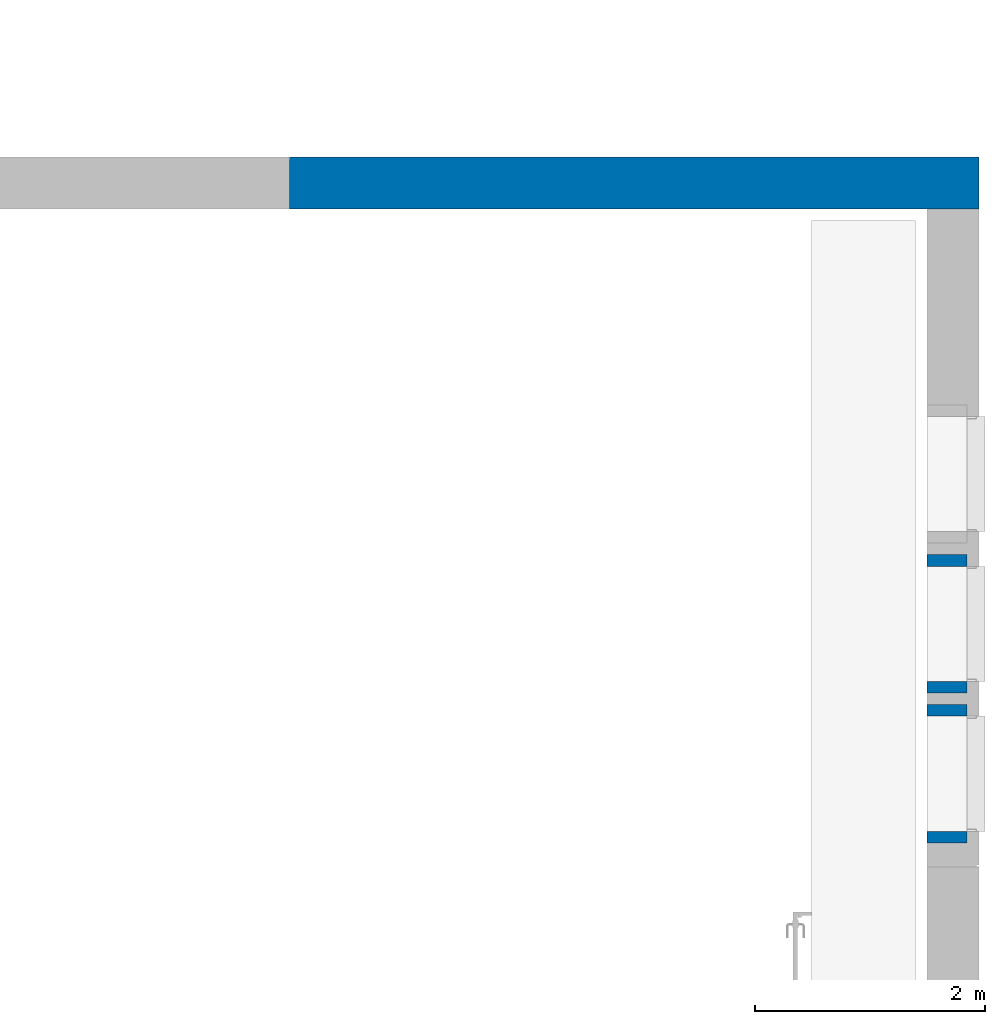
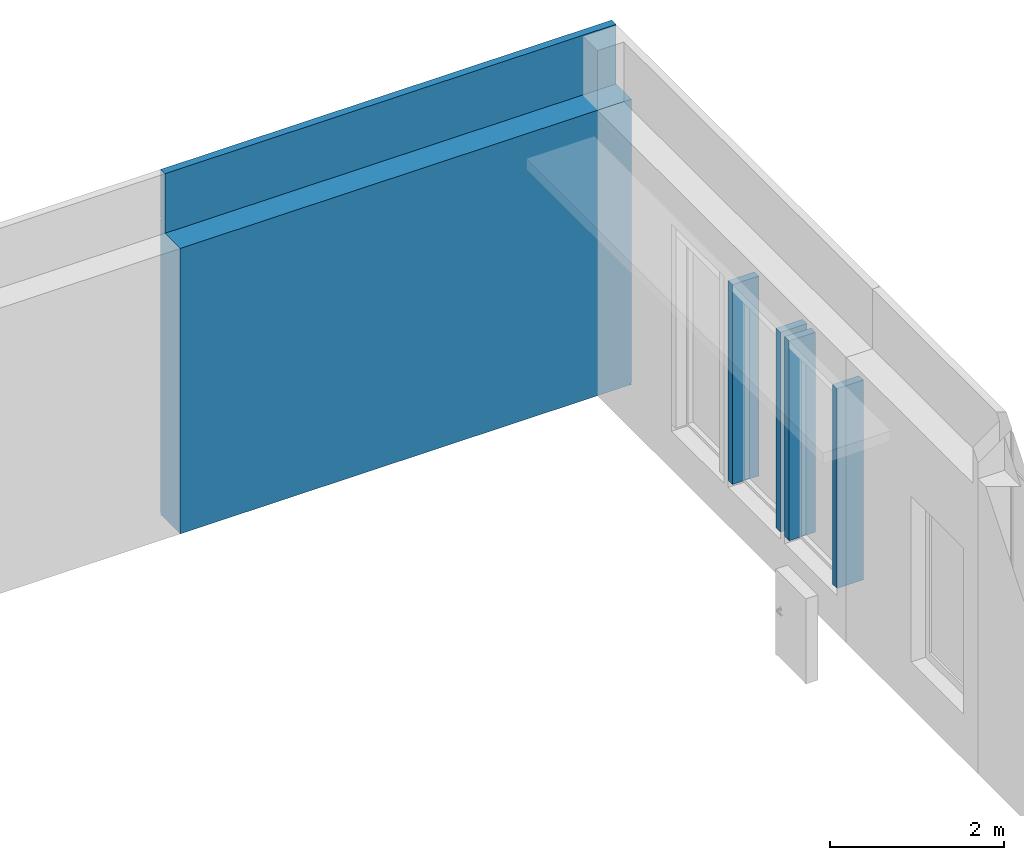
# One storey, part 26 of 33: 5 walls, 2 openings.
"""IFC2X3 building model written with IfcOpenShell, lengths in millimetres."""

from ifc_helpers import new_model, entity, si_unit, converted_unit, derived_unit, direction, frame, frame_2d, origin, place, context, subcontext, project, spatial, polyline, rectangle, extrude, clip, bounded_halfspace, faceted_brep, material, layer, layer_set, layer_usage, type_object, element, save


model = new_model("IFC2X3")

# Units and contexts
model_context = context("Model", 3, precision=0.01, world=origin(), true_north=direction((6.12303176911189e-17, 1.0)))
body_context = subcontext(model_context, "Body", "Model", "MODEL_VIEW")
ifc_project = project(units=[si_unit("LENGTHUNIT", "METRE", prefix="MILLI"), si_unit("AREAUNIT", "SQUARE_METRE"), si_unit("VOLUMEUNIT", "CUBIC_METRE"), converted_unit("PLANEANGLEUNIT", "DEGREE", entity("IfcRatioMeasure", 0.0174532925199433), si_unit("PLANEANGLEUNIT", "RADIAN"), dimensions=[0, 0, 0, 0, 0, 0, 0]), si_unit("MASSUNIT", "GRAM", prefix="KILO"), derived_unit("MASSDENSITYUNIT", [(si_unit("MASSUNIT", "GRAM", prefix="KILO"), 1), (si_unit("LENGTHUNIT", "METRE"), -3)]), si_unit("TIMEUNIT", "SECOND"), si_unit("FREQUENCYUNIT", "HERTZ"), si_unit("THERMODYNAMICTEMPERATUREUNIT", "DEGREE_CELSIUS"), derived_unit("THERMALTRANSMITTANCEUNIT", [(si_unit("MASSUNIT", "GRAM", prefix="KILO"), 1), (si_unit("THERMODYNAMICTEMPERATUREUNIT", "KELVIN"), -1), (si_unit("TIMEUNIT", "SECOND"), -3)]), derived_unit("VOLUMETRICFLOWRATEUNIT", [(si_unit("LENGTHUNIT", "METRE"), 3), (si_unit("TIMEUNIT", "SECOND"), -1)]), si_unit("ELECTRICCURRENTUNIT", "AMPERE"), si_unit("ELECTRICVOLTAGEUNIT", "VOLT"), si_unit("POWERUNIT", "WATT"), si_unit("FORCEUNIT", "NEWTON", prefix="KILO"), si_unit("ILLUMINANCEUNIT", "LUX"), si_unit("LUMINOUSFLUXUNIT", "LUMEN"), si_unit("LUMINOUSINTENSITYUNIT", "CANDELA"), derived_unit("USERDEFINED", [(si_unit("MASSUNIT", "GRAM", prefix="KILO"), -1), (si_unit("LENGTHUNIT", "METRE"), -2), (si_unit("TIMEUNIT", "SECOND"), 3), (si_unit("LUMINOUSFLUXUNIT", "LUMEN"), 1)]), derived_unit("LINEARVELOCITYUNIT", [(si_unit("LENGTHUNIT", "METRE"), 1), (si_unit("TIMEUNIT", "SECOND"), -1)]), si_unit("PRESSUREUNIT", "PASCAL"), derived_unit("USERDEFINED", [(si_unit("LENGTHUNIT", "METRE"), -2), (si_unit("MASSUNIT", "GRAM", prefix="KILO"), 1), (si_unit("TIMEUNIT", "SECOND"), -2)])], contexts=[model_context])

# Site, building, storey
site_placement = place(None, origin())
site = spatial("IfcSite", under=ifc_project, at=site_placement, Name="Default", CompositionType="ELEMENT")
building_placement = place(site_placement, origin())
building = spatial("IfcBuilding", under=site, at=building_placement, CompositionType="ELEMENT")
storey_placement = place(building_placement, frame((0.0, 0.0, 4000.0)))
storey = spatial("IfcBuildingStorey", under=building, at=storey_placement, Name="2. KORRUS", CompositionType="ELEMENT", Elevation=4000.0)

# Wall, openings
ifc_material_1 = material(Name="RECKLI 1 173 THUR by Polantis 2016-toon1")
ifc_layer_1 = layer(ifc_material_1, 100.0)
ifc_material_2 = material(Name="Soojusisolatsioon EPS")
ifc_layer_2 = layer(ifc_material_2, 200.0)
ifc_material_3 = material(Name="r/b")
ifc_layer_3 = layer(ifc_material_3, 150.0)
ifc_layer_set_1 = layer_set([ifc_layer_1, ifc_layer_2, ifc_layer_3], Name="Basic Wall:VS-1_toon-d")
ifc_layer_usage_1 = layer_usage(ifc_layer_set_1, "AXIS2", "NEGATIVE", 225.0)
wall_type_1 = type_object("IfcWallType", Name="Basic Wall:VS-1_toon-d", PredefinedType="STANDARD", material=ifc_layer_set_1)
wall_1_placement = place(storey_placement, frame((33970.103570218, 21725.0517807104, -135.0)))
wall_1 = element("IfcWallStandardCase", 1, at=wall_1_placement, inside=storey, type_object=wall_type_1, material=ifc_layer_usage_1, Name="Basic Wall:VS-1_toon-d", ObjectType="Basic Wall:VS-1_toon-d", context=body_context, shape_type="Clipping", body=[
    clip(clip(extrude(rectangle(XDim=5979.89642978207, YDim=450.000000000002, at=frame_2d((2989.94821489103, 9.52127265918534e-13), x_axis=(-1.0, 0.0))), origin(), (0.0, 0.0, 1.0), 4835.0), bounded_halfspace(frame((0.0, -225.0, 4000.0), z_axis=(0.0, 0.0, 1.0), x_axis=(0.0, 1.0, 0.0)), False, frame((0.0, -225.0, 4000.0)), polyline([(0.0, 0.0), (5529.89642978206, 0.0), (5979.89642978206, 0.0), (5979.89642978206, 333.948219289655), (5979.89642978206, 350.0), (5959.89642978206, 350.0), (5879.89642978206, 350.0), (0.0, 350.0), (0.0, 0.0)]))), bounded_halfspace(frame((0.0, -225.0, 4000.0), z_axis=(0.0, 0.0, 1.0), x_axis=(0.0, 1.0, 0.0)), False, frame((0.0, -225.0, 4000.0)), polyline([(0.0, 0.0), (5529.89642978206, 0.0), (5979.89642978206, 0.0), (5979.89642978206, 333.948219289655), (5979.89642978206, 350.0), (5959.89642978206, 350.0), (5879.89642978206, 350.0), (0.0, 350.0), (0.0, 0.0)]))),
])
opening_1_placement = place(wall_1_placement, frame((-34420.1035702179, -22175.0517807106, 4.0)))
element("IfcOpeningElement", 2, at=opening_1_placement, cuts=wall_1, Name="Basic Wall:VS-1_toon-d", ObjectType="Opening", context=body_context, shape_type="Brep", body=[
    faceted_brep([(11850.0, 20.0, 16.0), (11850.0, 0.0, 16.0), (11850.0, 0.0, 0.0), (11850.0, 20.0, 0.0), (4260.0, 20.0, 16.0), (4260.0, 20.0, 0.0), (4260.0, 0.0, 0.0), (4260.0, 0.0, 16.0)], [[[0, 1, 2, 3]], [[4, 5, 6, 7]], [[1, 0, 4, 7]], [[2, 1, 7, 6]], [[3, 2, 6, 5]], [[0, 3, 5, 4]]]),
    faceted_brep([(20.0, 28480.0, 16.0), (20.0, 28480.0, 0.0), (0.0, 28500.0, 0.0), (0.0, 28500.0, 16.0), (20.0, 23740.0, 16.0), (0.0, 23740.0, 16.0), (0.0, 23740.0, 0.0), (20.0, 23740.0, 0.0)], [[[0, 1, 2, 3]], [[4, 5, 6, 7]], [[1, 0, 4, 7]], [[2, 1, 7, 6]], [[3, 2, 6, 5]], [[0, 3, 5, 4]]]),
    faceted_brep([(10080.0, 22380.0517807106, 16.0), (10100.0, 22400.0517807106, 16.0), (10100.0, 22400.0517807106, 0.0), (10080.0, 22380.0517807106, 0.0), (15330.3475962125, 22380.0517807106, 16.0), (15330.3475962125, 22380.0517807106, 0.0), (15330.3475962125, 22400.0517807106, 0.0), (15330.3475962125, 22400.0517807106, 16.0)], [[[0, 1, 2, 3]], [[4, 5, 6, 7]], [[1, 0, 4, 7]], [[2, 1, 7, 6]], [[3, 2, 6, 5]], [[0, 3, 5, 4]]]),
    faceted_brep([(20.0, 28480.0, 16.0), (0.0, 28500.0, 16.0), (0.0, 28500.0, 0.0), (20.0, 28480.0, 0.0), (4360.0, 28480.0, 16.0), (4360.0, 28480.0, 0.0), (4360.0, 28500.0, 0.0), (4360.0, 28500.0, 16.0)], [[[0, 1, 2, 3]], [[4, 5, 6, 7]], [[1, 0, 4, 7]], [[2, 1, 7, 6]], [[3, 2, 6, 5]], [[0, 3, 5, 4]]]),
    faceted_brep([(40380.0, 20.0, 16.0), (40400.0, 0.0, 16.0), (40400.0, 0.0, 0.0), (40380.0, 20.0, 0.0), (35250.0, 20.0, 16.0), (35250.0, 20.0, 0.0), (35250.0, 0.0, 0.0), (35250.0, 0.0, 16.0)], [[[0, 1, 2, 3]], [[4, 5, 6, 7]], [[1, 0, 4, 7]], [[2, 1, 7, 6]], [[3, 2, 6, 5]], [[0, 3, 5, 4]]]),
    faceted_brep([(34420.1035702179, 22380.0517807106, 16.0), (34420.1035702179, 22400.0517807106, 16.0), (34420.1035702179, 22400.0517807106, 0.0), (34420.1035702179, 22380.0517807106, 0.0), (40380.0, 22380.0517807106, 16.0), (40380.0, 22380.0517807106, 0.0), (40400.0, 22400.0517807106, 0.0), (40400.0, 22400.0517807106, 16.0)], [[[0, 1, 2, 3]], [[4, 5, 6, 7]], [[1, 0, 4, 7]], [[2, 1, 7, 6]], [[3, 2, 6, 5]], [[0, 3, 5, 4]]]),
    faceted_brep([(29113.2161487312, 22380.0517807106, 16.0), (29113.2161487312, 22400.0517807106, 16.0), (29113.2161487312, 22400.0517807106, 0.0), (29113.2161487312, 22380.0517807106, 0.0), (34420.1035702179, 22380.0517807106, 16.0), (34420.1035702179, 22380.0517807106, 0.0), (34420.1035702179, 22400.0517807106, 0.0), (34420.1035702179, 22400.0517807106, 16.0)], [[[0, 1, 2, 3]], [[4, 5, 6, 7]], [[1, 0, 4, 7]], [[2, 1, 7, 6]], [[3, 2, 6, 5]], [[0, 3, 5, 4]]]),
    faceted_brep([(10080.0, 28480.0, 16.0), (10100.0, 28500.0, 16.0), (10100.0, 28500.0, 0.0), (10080.0, 28480.0, 0.0), (10080.0, 22380.0517807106, 16.0), (10080.0, 22380.0517807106, 0.0), (10100.0, 22400.0517807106, 0.0), (10100.0, 22400.0517807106, 16.0)], [[[0, 1, 2, 3]], [[4, 5, 6, 7]], [[1, 0, 4, 7]], [[2, 1, 7, 6]], [[3, 2, 6, 5]], [[0, 3, 5, 4]]]),
    faceted_brep([(4260.0, 20.0, 16.0), (4260.0, 0.0, 16.0), (4260.0, 0.0, 0.0), (4260.0, 20.0, 0.0), (0.0, 20.0, 16.0), (0.0, 20.0, 0.0), (0.0, 0.0, 0.0), (0.0, 0.0, 16.0)], [[[0, 1, 2, 3]], [[4, 5, 6, 7]], [[1, 0, 4, 7]], [[2, 1, 7, 6]], [[3, 2, 6, 5]], [[0, 3, 5, 4]]]),
    faceted_brep([(40380.0, 4865.0, 16.0), (40400.0, 4865.0, 16.0), (40400.0, 4865.0, 0.0), (40380.0, 4865.0, 0.0), (40380.0, 20.0, 16.0), (40380.0, 20.0, 0.0), (40400.0, 0.0, 0.0), (40400.0, 0.0, 16.0)], [[[0, 1, 2, 3]], [[4, 5, 6, 7]], [[1, 0, 4, 7]], [[2, 1, 7, 6]], [[3, 2, 6, 5]], [[0, 3, 5, 4]]]),
    faceted_brep([(40380.0, 9093.33000000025, 16.0), (40400.0, 9093.33000000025, 16.0), (40400.0, 9093.33000000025, 0.0), (40380.0, 9093.33000000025, 0.0), (40380.0, 4865.0, 16.0), (40380.0, 4865.0, 0.0), (40400.0, 4865.0, 0.0), (40400.0, 4865.0, 16.0)], [[[0, 1, 2, 3]], [[4, 5, 6, 7]], [[1, 0, 4, 7]], [[2, 1, 7, 6]], [[3, 2, 6, 5]], [[0, 3, 5, 4]]]),
    faceted_brep([(40380.0, 13210.0, 16.0), (40400.0, 13210.0, 16.0), (40400.0, 13210.0, 0.0), (40380.0, 13210.0, 0.0), (40380.0, 9093.33000000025, 16.0), (40380.0, 9093.33000000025, 0.0), (40400.0, 9093.33000000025, 0.0), (40400.0, 9093.33000000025, 16.0)], [[[0, 1, 2, 3]], [[4, 5, 6, 7]], [[1, 0, 4, 7]], [[2, 1, 7, 6]], [[3, 2, 6, 5]], [[0, 3, 5, 4]]]),
    faceted_brep([(40380.0, 16240.0, 16.0), (40400.0, 16240.0, 16.0), (40400.0, 16240.0, 0.0), (40380.0, 16240.0, 0.0), (40380.0, 13210.0, 16.0), (40380.0, 13210.0, 0.0), (40400.0, 13210.0, 0.0), (40400.0, 13210.0, 16.0)], [[[0, 1, 2, 3]], [[4, 5, 6, 7]], [[1, 0, 4, 7]], [[2, 1, 7, 6]], [[3, 2, 6, 5]], [[0, 3, 5, 4]]]),
    faceted_brep([(40380.0, 22380.0517807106, 16.0), (40400.0, 22400.0517807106, 16.0), (40400.0, 22400.0517807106, 0.0), (40380.0, 22380.0517807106, 0.0), (40380.0, 16240.0, 16.0), (40380.0, 16240.0, 0.0), (40400.0, 16240.0, 0.0), (40400.0, 16240.0, 16.0)], [[[0, 1, 2, 3]], [[4, 5, 6, 7]], [[1, 0, 4, 7]], [[2, 1, 7, 6]], [[3, 2, 6, 5]], [[0, 3, 5, 4]]]),
    faceted_brep([(22535.0, 22380.0517807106, 16.0), (22535.0, 22400.0517807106, 16.0), (22535.0, 22400.0517807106, 0.0), (22535.0, 22380.0517807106, 0.0), (29113.2161487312, 22380.0517807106, 16.0), (29113.2161487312, 22380.0517807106, 0.0), (29113.2161487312, 22400.0517807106, 0.0), (29113.2161487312, 22400.0517807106, 16.0)], [[[0, 1, 2, 3]], [[4, 5, 6, 7]], [[1, 0, 4, 7]], [[2, 1, 7, 6]], [[3, 2, 6, 5]], [[0, 3, 5, 4]]]),
    faceted_brep([(18703.3528910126, 22380.0517807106, 16.0), (18703.3528910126, 22400.0517807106, 16.0), (18703.3528910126, 22400.0517807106, 0.0), (18703.3528910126, 22380.0517807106, 0.0), (22535.0, 22380.0517807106, 16.0), (22535.0, 22380.0517807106, 0.0), (22535.0, 22400.0517807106, 0.0), (22535.0, 22400.0517807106, 16.0)], [[[0, 1, 2, 3]], [[4, 5, 6, 7]], [[1, 0, 4, 7]], [[2, 1, 7, 6]], [[3, 2, 6, 5]], [[0, 3, 5, 4]]]),
    faceted_brep([(15330.3475962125, 22380.0517807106, 16.0), (15330.3475962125, 22400.0517807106, 16.0), (15330.3475962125, 22400.0517807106, 0.0), (15330.3475962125, 22380.0517807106, 0.0), (18703.3528910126, 22380.0517807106, 16.0), (18703.3528910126, 22380.0517807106, 0.0), (18703.3528910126, 22400.0517807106, 0.0), (18703.3528910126, 22400.0517807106, 16.0)], [[[0, 1, 2, 3]], [[4, 5, 6, 7]], [[1, 0, 4, 7]], [[2, 1, 7, 6]], [[3, 2, 6, 5]], [[0, 3, 5, 4]]]),
    faceted_brep([(4360.0, 28480.0, 16.0), (4360.0, 28500.0, 16.0), (4360.0, 28500.0, 0.0), (4360.0, 28480.0, 0.0), (10080.0, 28480.0, 16.0), (10080.0, 28480.0, 0.0), (10100.0, 28500.0, 0.0), (10100.0, 28500.0, 16.0)], [[[0, 1, 2, 3]], [[4, 5, 6, 7]], [[1, 0, 4, 7]], [[2, 1, 7, 6]], [[3, 2, 6, 5]], [[0, 3, 5, 4]]]),
    faceted_brep([(20.0, 23740.0, 16.0), (20.0, 23740.0, 0.0), (0.0, 23740.0, 0.0), (0.0, 23740.0, 16.0), (20.0, 16890.0006972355, 16.0), (0.0, 16890.0006972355, 16.0), (0.0, 16890.0006972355, 0.0), (20.0, 16890.0006972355, 0.0)], [[[0, 1, 2, 3]], [[4, 5, 6, 7]], [[1, 0, 4, 7]], [[2, 1, 7, 6]], [[3, 2, 6, 5]], [[0, 3, 5, 4]]]),
    faceted_brep([(20.0, 16890.0006972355, 16.0), (20.0, 16890.0006972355, 0.0), (0.0, 16890.0006972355, 0.0), (0.0, 16890.0006972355, 16.0), (20.0, 13460.0, 16.0), (0.0, 13460.0, 16.0), (0.0, 13460.0, 0.0), (20.0, 13460.0, 0.0)], [[[0, 1, 2, 3]], [[4, 5, 6, 7]], [[1, 0, 4, 7]], [[2, 1, 7, 6]], [[3, 2, 6, 5]], [[0, 3, 5, 4]]]),
])
opening_2_placement = place(wall_1_placement, origin())
element("IfcOpeningElement", 3, at=opening_2_placement, cuts=wall_1, Name="Basic Wall:VS-1_toon-d", ObjectType="Opening", context=body_context, shape_type="SweptSolid", body=[
    extrude(rectangle(XDim=15.9999999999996, YDim=7590.0, at=frame_2d((0.0, -5.40900657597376e-13), x_axis=(0.0, 1.0))), frame((-26365.1035702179, -22175.0517807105, 4147.0), z_axis=(0.0, 1.0, 0.0), x_axis=(-1.0, 0.0, 0.0)), (0.0, 0.0, 1.0), 20.0),
    extrude(rectangle(XDim=15.9999999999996, YDim=20.0, at=frame_2d((5.40900657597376e-13, -3.37507799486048e-14), x_axis=(1.0, 0.0))), frame((-34410.1035702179, 1564.94821928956, 4147.0), z_axis=(0.0, 1.0, 0.0), x_axis=(0.0, 0.0, -1.0)), (0.0, 0.0, 1.0), 4660.0),
    extrude(rectangle(XDim=15.9999999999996, YDim=5230.3475962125, at=frame_2d((0.0, 5.40900657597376e-13), x_axis=(0.0, 1.0))), frame((-21704.9297721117, 205.0, 4147.0), z_axis=(0.0, 1.0, 0.0), x_axis=(1.0, 0.0, 0.0)), (0.0, 0.0, 1.0), 19.9999999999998),
    extrude(rectangle(XDim=15.9999999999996, YDim=4360.0, at=frame_2d((0.0, 5.40900657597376e-13), x_axis=(0.0, 1.0))), frame((-32240.1035702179, 6304.94821928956, 4147.0), z_axis=(0.0, 1.0, 0.0), x_axis=(1.0, 0.0, 0.0)), (0.0, 0.0, 1.0), 19.9999999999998),
    extrude(rectangle(XDim=15.9999999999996, YDim=5050.0, at=frame_2d((2.27373675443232e-12, 0.0), x_axis=(0.0, 1.0))), frame((3354.8964297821, -22175.0517807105, 4147.0), z_axis=(0.0, 1.0, 0.0), x_axis=(-1.0, 0.0, 0.0)), (0.0, 0.0, 1.0), 20.0),
    extrude(rectangle(XDim=15.9999999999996, YDim=5979.89642978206, at=frame_2d((-2.27373675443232e-12, 0.0), x_axis=(0.0, 1.0))), frame((2989.94821489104, 205.0, 4147.0), z_axis=(0.0, 1.0, 0.0), x_axis=(1.0, 0.0, 0.0)), (0.0, 0.0, 1.0), 19.9999999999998),
    extrude(rectangle(XDim=15.9999999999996, YDim=5306.88742148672, at=frame_2d((2.04636307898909e-12, 5.40900657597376e-13), x_axis=(0.0, 1.0))), frame((-2653.44371074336, 205.0, 4147.0), z_axis=(0.0, 1.0, 0.0), x_axis=(1.0, 0.0, 0.0)), (0.0, 0.0, 1.0), 19.9999999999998),
    extrude(rectangle(XDim=15.9999999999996, YDim=19.9999999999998, at=frame_2d((0.0, 5.40900657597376e-13), x_axis=(0.0, 1.0))), frame((-24330.1035702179, 125.0, 4147.0), z_axis=(0.0, 1.0, 0.0), x_axis=(1.0, 0.0, 0.0)), (0.0, 0.0, 1.0), 6099.94821928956),
    extrude(rectangle(XDim=15.9999999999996, YDim=4160.00000000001, at=frame_2d((0.0, -5.40900657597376e-13), x_axis=(0.0, 1.0))), frame((-32240.1035702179, -22175.0517807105, 4147.0), z_axis=(0.0, 1.0, 0.0), x_axis=(-1.0, 0.0, 0.0)), (0.0, 0.0, 1.0), 20.0),
    extrude(rectangle(XDim=15.9999999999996, YDim=20.0000000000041, at=frame_2d((4.33164615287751e-12, 5.40900657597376e-13), x_axis=(0.0, 1.0))), frame((5969.8964297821, -22175.0517807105, 4147.0), z_axis=(0.0, 1.0, 0.0), x_axis=(1.0, 0.0, 0.0)), (0.0, 0.0, 1.0), 4865.0),
    extrude(rectangle(XDim=15.9999999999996, YDim=20.0000000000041, at=frame_2d((-4.33164615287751e-12, -5.40900657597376e-13), x_axis=(0.0, 1.0))), frame((5969.8964297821, -17310.0517807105, 4147.0), z_axis=(0.0, 1.0, 0.0), x_axis=(1.0, 0.0, 0.0)), (0.0, 0.0, 1.0), 4228.33000000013),
    extrude(rectangle(XDim=15.9999999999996, YDim=20.0000000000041, at=frame_2d((-4.33164615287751e-12, -5.40900657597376e-13), x_axis=(0.0, 1.0))), frame((5969.89642978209, -13081.7217807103, 4147.0), z_axis=(0.0, 1.0, 0.0), x_axis=(1.0, 0.0, 0.0)), (0.0, 0.0, 1.0), 4236.66999997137),
    extrude(rectangle(XDim=15.9999999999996, YDim=20.0000000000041, at=frame_2d((4.33164615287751e-12, 5.40900657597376e-13), x_axis=(0.0, 1.0))), frame((5969.89642978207, -8845.05178073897, 4147.0), z_axis=(0.0, 1.0, 0.0), x_axis=(1.0, 0.0, 0.0)), (0.0, 0.0, 1.0), 2910.00000002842),
    extrude(rectangle(XDim=15.9999999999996, YDim=20.0000000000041, at=frame_2d((-4.33164615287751e-12, 5.40900657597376e-13), x_axis=(0.0, 1.0))), frame((5969.89642978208, -5935.05178071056, 4147.0), z_axis=(0.0, 1.0, 0.0), x_axis=(1.0, 0.0, 0.0)), (0.0, 0.0, 1.0), 6060.05178071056),
    extrude(rectangle(XDim=15.9999999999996, YDim=3831.64710898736, at=frame_2d((1.13686837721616e-12, 5.40900657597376e-13), x_axis=(0.0, 1.0))), frame((-13800.9271247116, 205.0, 4147.0), z_axis=(0.0, 1.0, 0.0), x_axis=(1.0, 0.0, 0.0)), (0.0, 0.0, 1.0), 19.9999999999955),
    extrude(rectangle(XDim=15.9999999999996, YDim=3373.00529480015, at=frame_2d((0.0, 5.40900657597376e-13), x_axis=(0.0, 1.0))), frame((-17403.2533266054, 205.0, 4147.0), z_axis=(0.0, 1.0, 0.0), x_axis=(1.0, 0.0, 0.0)), (0.0, 0.0, 1.0), 19.9999999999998),
    extrude(rectangle(XDim=15.9999999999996, YDim=5739.99999999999, at=frame_2d((-2.27373675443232e-13, 5.40900657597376e-13), x_axis=(0.0, 1.0))), frame((-27190.1035702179, 6304.94821928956, 4147.0), z_axis=(0.0, 1.0, 0.0), x_axis=(1.0, 0.0, 0.0)), (0.0, 0.0, 1.0), 19.9999999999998),
    extrude(rectangle(XDim=15.9999999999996, YDim=20.0, at=frame_2d((5.40900657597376e-13, -3.37507799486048e-14), x_axis=(1.0, 0.0))), frame((-34410.1035702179, -5285.05108347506, 4147.0), z_axis=(0.0, 1.0, 0.0), x_axis=(0.0, 0.0, -1.0)), (0.0, 0.0, 1.0), 6849.99930276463),
    extrude(rectangle(XDim=15.9999999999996, YDim=20.0, at=frame_2d((5.40900657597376e-13, 3.37507799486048e-14), x_axis=(1.0, 0.0))), frame((-34410.1035702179, -8715.05178073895, 4147.0), z_axis=(0.0, 1.0, 0.0), x_axis=(0.0, 0.0, -1.0)), (0.0, 0.0, 1.0), 3430.00069726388),
    extrude(rectangle(XDim=15.9999999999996, YDim=6578.21614873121, at=frame_2d((0.0, 5.40900657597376e-13), x_axis=(0.0, 1.0))), frame((-8595.99549585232, 205.0, 4147.0), z_axis=(0.0, 1.0, 0.0), x_axis=(1.0, 0.0, 0.0)), (0.0, 0.0, 1.0), 19.9999999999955),
    extrude(rectangle(XDim=15.9999999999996, YDim=4110.0, at=frame_2d((1.13686837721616e-12, -5.40900657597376e-13), x_axis=(0.0, 1.0))), frame((-20515.1035702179, -22175.0517807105, 4147.0), z_axis=(0.0, 1.0, 0.0), x_axis=(-1.0, 0.0, 0.0)), (0.0, 0.0, 1.0), 19.9999999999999),
    extrude(rectangle(XDim=15.9999999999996, YDim=4600.0, at=frame_2d((-2.27373675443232e-12, -5.40900657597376e-13), x_axis=(0.0, 1.0))), frame((-16160.1035702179, -22175.0517807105, 4147.0), z_axis=(0.0, 1.0, 0.0), x_axis=(-1.0, 0.0, 0.0)), (0.0, 0.0, 1.0), 20.0),
    extrude(rectangle(XDim=15.9999999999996, YDim=4600.0, at=frame_2d((2.27373675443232e-12, -5.40900657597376e-13), x_axis=(0.0, 1.0))), frame((-11560.1035702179, -22175.0517807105, 4147.0), z_axis=(0.0, 1.0, 0.0), x_axis=(-1.0, 0.0, 0.0)), (0.0, 0.0, 1.0), 20.0),
    extrude(rectangle(XDim=15.9999999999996, YDim=5299.99999999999, at=frame_2d((-2.04636307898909e-12, -5.40900657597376e-13), x_axis=(0.0, 1.0))), frame((-6610.1035702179, -22175.0517807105, 4147.0), z_axis=(0.0, 1.0, 0.0), x_axis=(-1.0, 0.0, 0.0)), (0.0, 0.0, 1.0), 20.0),
    extrude(rectangle(XDim=15.9999999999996, YDim=4790.0, at=frame_2d((0.0, -5.40900657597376e-13), x_axis=(0.0, 1.0))), frame((-1565.1035702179, -22175.0517807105, 4147.0), z_axis=(0.0, 1.0, 0.0), x_axis=(-1.0, 0.0, 0.0)), (0.0, 0.0, 1.0), 20.0000000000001),
    extrude(rectangle(XDim=15.9999999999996, YDim=20.0, at=frame_2d((5.40900657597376e-13, -3.37507799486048e-14), x_axis=(1.0, 0.0))), frame((-34410.1035702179, -13439.9109855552, 4147.0), z_axis=(0.0, 1.0, 0.0), x_axis=(0.0, 0.0, -1.0)), (0.0, 0.0, 1.0), 4724.85920481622),
    extrude(rectangle(XDim=15.9999999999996, YDim=20.0, at=frame_2d((5.40900657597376e-13, -3.37507799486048e-14), x_axis=(1.0, 0.0))), frame((-34410.1035702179, -22175.0517807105, 4147.0), z_axis=(0.0, 1.0, 0.0), x_axis=(0.0, 0.0, -1.0)), (0.0, 0.0, 1.0), 8735.1407951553),
])

# Walls
ifc_material_4 = material(Name="Soojusisolatsioon PIR fooliumkattega")
ifc_layer_4 = layer(ifc_material_4, 100.0)
ifc_layer_set_2 = layer_set([ifc_layer_4], Name="Basic Wall:VS-4")
ifc_layer_usage_2 = layer_usage(ifc_layer_set_2, "AXIS2", "NEGATIVE", 50.0)
wall_type_2 = type_object("IfcWallType", Name="Basic Wall:VS-4", PredefinedType="STANDARD", material=ifc_layer_set_2)
wall_2_placement = place(storey_placement, frame((39500.0, 16050.0, 500.0)))
element("IfcWallStandardCase", 4, at=wall_2_placement, inside=storey, type_object=wall_type_2, material=ifc_layer_usage_2, Name="Basic Wall:VS-4", ObjectType="Basic Wall:VS-4", context=body_context, shape_type="SweptSolid", body=[
    extrude(rectangle(XDim=349.999999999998, YDim=99.9999999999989, at=frame_2d((174.999999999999, 0.0), x_axis=(-1.0, 0.0))), origin(), (0.0, 0.0, 1.0), 2800.0),
])
ifc_layer_usage_3 = layer_usage(ifc_layer_set_2, "AXIS2", "NEGATIVE", 50.0)
wall_3_placement = place(storey_placement, frame((39500.0, 17150.0, 500.0)))
element("IfcWallStandardCase", 5, at=wall_3_placement, inside=storey, type_object=wall_type_2, material=ifc_layer_usage_3, Name="Basic Wall:VS-4", ObjectType="Basic Wall:VS-4", context=body_context, shape_type="SweptSolid", body=[
    extrude(rectangle(XDim=349.999999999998, YDim=99.9999999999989, at=frame_2d((174.999999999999, 0.0), x_axis=(-1.0, 0.0))), origin(), (0.0, 0.0, 1.0), 2800.0),
])
ifc_layer_usage_4 = layer_usage(ifc_layer_set_2, "AXIS2", "NEGATIVE", 50.0)
wall_4_placement = place(storey_placement, frame((39500.0, 17350.0, 500.0)))
element("IfcWallStandardCase", 6, at=wall_4_placement, inside=storey, type_object=wall_type_2, material=ifc_layer_usage_4, Name="Basic Wall:VS-4", ObjectType="Basic Wall:VS-4", context=body_context, shape_type="SweptSolid", body=[
    extrude(rectangle(XDim=349.999999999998, YDim=99.9999999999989, at=frame_2d((174.999999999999, 0.0), x_axis=(-1.0, 0.0))), origin(), (0.0, 0.0, 1.0), 2800.0),
])
ifc_layer_usage_5 = layer_usage(ifc_layer_set_2, "AXIS2", "NEGATIVE", 50.0)
wall_5_placement = place(storey_placement, frame((39500.0, 18450.0, 500.0)))
element("IfcWallStandardCase", 7, at=wall_5_placement, inside=storey, type_object=wall_type_2, material=ifc_layer_usage_5, Name="Basic Wall:VS-4", ObjectType="Basic Wall:VS-4", context=body_context, shape_type="SweptSolid", body=[
    extrude(rectangle(XDim=349.999999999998, YDim=99.9999999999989, at=frame_2d((174.999999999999, 0.0), x_axis=(-1.0, 0.0))), origin(), (0.0, 0.0, 1.0), 2800.0),
])

save(model, "model.ifc")
